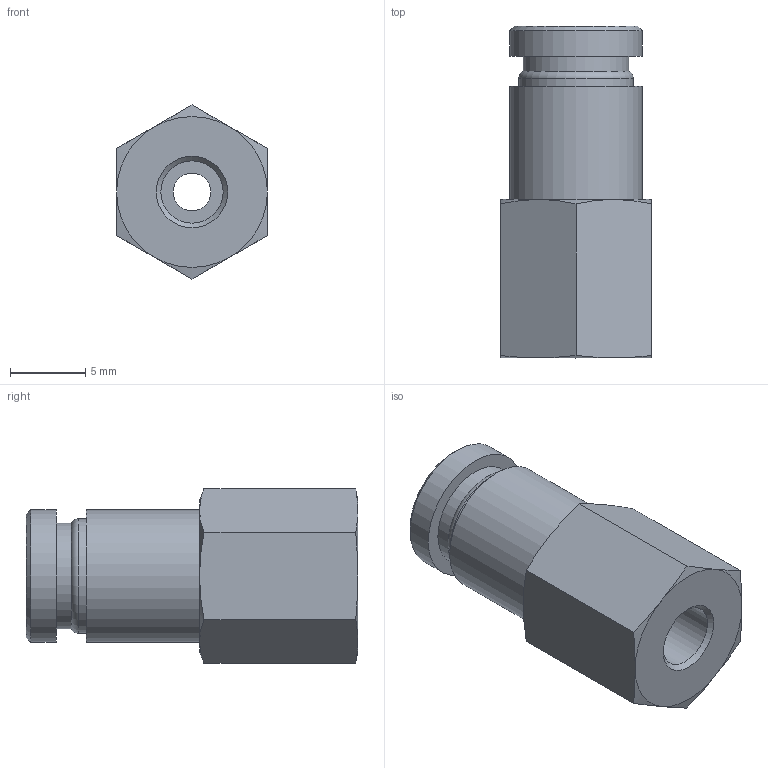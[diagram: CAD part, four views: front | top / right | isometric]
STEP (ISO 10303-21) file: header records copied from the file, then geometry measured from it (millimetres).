
FILE_DESCRIPTION(/* description */ (''),/* implementation_level */ '2;1');
FILE_NAME(/* name */ 'LXH14 0004 M5.stp',/* time_stamp */ '2026-04-27T19:35:14+02:00',/* author */ ('freju'),/* organization */ (''),/* preprocessor_version */ 'ST-DEVELOPER v20.1',/* originating_system */ 'Autodesk Inventor 2026',/* authorisation */ '');
FILE_SCHEMA (('AUTOMOTIVE_DESIGN { 1 0 10303 214 3 1 1 }'));
Length unit declared in the file: millimetre
Products named in the file (1): LXH14 0004 M5
Bounding box: 10 x 22 x 11.55 mm (x, y, z)
Volume: 1297.1 mm3; surface area: 1136.2 mm2
Topology: 1 solids, 1 shells, 35 faces, 70 edges, 42 vertices
Faces by surface type: cone 14, plane 13, cylinder 7, torus 1
Full cylindrical faces by diameter (mm): 2.5 x1, 4 x1, 4.134 x1, 7 x1, 7.6 x1, 8.8 x2
Entity records: 926 total; most frequent: CARTESIAN_POINT 196, DIRECTION 149, ORIENTED_EDGE 140, EDGE_CURVE 70, AXIS2_PLACEMENT_3D 67, EDGE_LOOP 42, VERTEX_POINT 42, FACE_OUTER_BOUND 35
